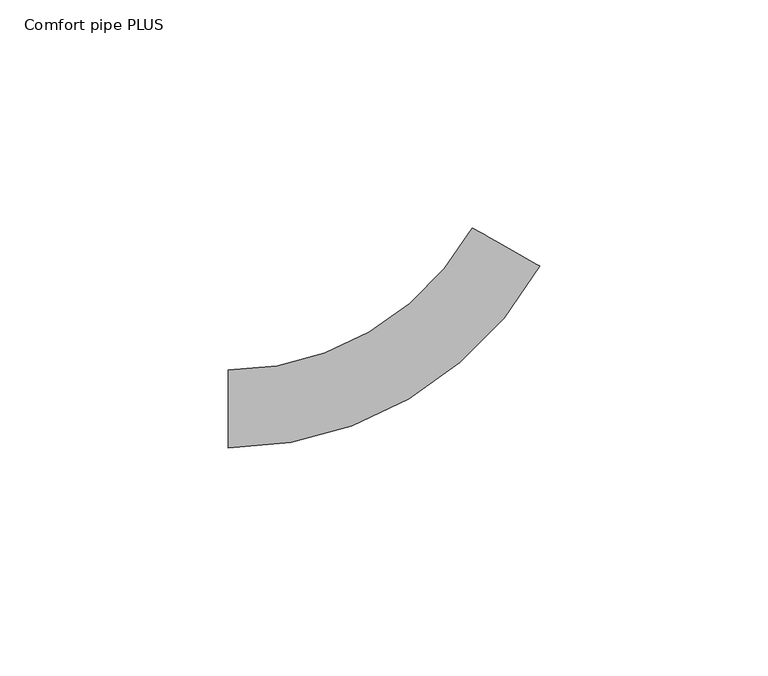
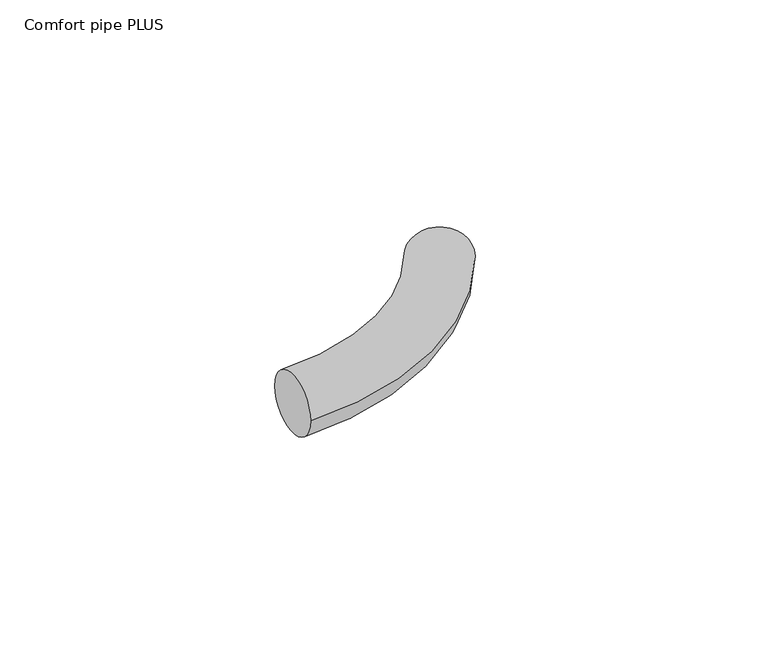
"""IFC4 building model written with IfcOpenShell, lengths in millimetres: pipe fitting geometry, 400_5-_Uponor_curved_Elbow : Comfort pipe PLUS."""

import ifcopenshell
import ifcopenshell.guid

model = None  # the IFC model being written
_history = None  # IfcOwnerHistory: only IFC2X3 demands one
_inside = {}  # id of a spatial element -> (the spatial element, [elements in it])
_under = {}  # id of a project, library or spatial element -> (it, [spatial elements below it])
_declared = {}  # id of a project -> (the project, [libraries it declares])
_typed = {}  # id of a type object -> (the type object, [elements of that type])
_made_of = {}  # id of a material, layer set ... -> (it, [elements and type objects made of it])


def new_model(schema):
    """Start an empty IFC model of exactly this schema.

    Asked for "IFC4X3", IfcOpenShell would pick the latest addendum, in which some entities
    have other attributes; the version numbers below select the first issue.
    IFC2X3 requires an IfcOwnerHistory on every rooted entity: one is made here for all.
    """
    global model, _history
    if schema == "IFC4X3":
        model = ifcopenshell.file(schema_version=(4, 3, 0, 0))
    else:
        model = ifcopenshell.file(schema=schema)
    _inside.clear()
    _under.clear()
    _declared.clear()
    _typed.clear()
    _made_of.clear()
    _history = None
    if model.schema == "IFC2X3":
        org = make("IfcOrganization", Name="unknown")
        user = make(
            "IfcPersonAndOrganization",
            ThePerson=make("IfcPerson", FamilyName="unknown"),
            TheOrganization=org,
        )
        app = make(
            "IfcApplication",
            ApplicationDeveloper=org,
            Version="unknown",
            ApplicationFullName="unknown",
            ApplicationIdentifier="unknown",
        )
        _history = make(
            "IfcOwnerHistory",
            OwningUser=user,
            OwningApplication=app,
            ChangeAction="ADDED",
            CreationDate=0,
        )
    return model


def make(cls, **values):
    """One entity of the class cls with the attributes given. An attribute that is None is left unset."""
    return model.create_entity(
        cls, **{name: value for name, value in values.items() if value is not None}
    )


def rooted(cls, **values):
    """An entity with a GlobalId (a new one), such as an element, a storey or a relation."""
    return make(cls, GlobalId=ifcopenshell.guid.new(), OwnerHistory=_history, **values)


def si_unit(unit_type, name, prefix=None):
    """IfcSIUnit, for example si_unit("LENGTHUNIT", "METRE", prefix="MILLI")."""
    return make("IfcSIUnit", UnitType=unit_type, Prefix=prefix, Name=name)


def assignment(units):
    """IfcUnitAssignment: the units of a project."""
    return None if units is None else make("IfcUnitAssignment", Units=units)


def point(xyz):
    """IfcCartesianPoint."""
    return None if xyz is None else make("IfcCartesianPoint", Coordinates=xyz)


def direction(xyz):
    """IfcDirection."""
    return None if xyz is None else make("IfcDirection", DirectionRatios=xyz)


def frame(location, z_axis=None, x_axis=None):
    """IfcAxis2Placement3D, a coordinate frame: its origin and axes. An axis left out is left unset."""
    return make(
        "IfcAxis2Placement3D",
        Location=point(location),
        Axis=direction(z_axis),
        RefDirection=direction(x_axis),
    )


def origin():
    """The frame at (0, 0, 0) with its axes left unset."""
    return frame((0.0, 0.0, 0.0))


def place(relative_to, where):
    """IfcLocalPlacement: puts the frame where relative to a parent placement (None: the world)."""
    return make(
        "IfcLocalPlacement", PlacementRelTo=relative_to, RelativePlacement=where
    )


def context(
    kind, dimensions, precision=None, world=None, true_north=None, identifier=None
):
    """IfcGeometricRepresentationContext, for example the 3D "Model" context."""
    return make(
        "IfcGeometricRepresentationContext",
        ContextIdentifier=identifier,
        ContextType=kind,
        CoordinateSpaceDimension=dimensions,
        Precision=precision,
        WorldCoordinateSystem=world,
        TrueNorth=true_north,
    )


def project(units=None, contexts=None):
    """IfcProject with its units and contexts."""
    return rooted(
        "IfcProject",
        Name="project",
        RepresentationContexts=contexts,
        UnitsInContext=assignment(units),
    )


def spatial(cls, under=None, at=None, **own):
    """A site, building, storey or space (cls), placed at a placement, below another one or the project."""
    s = rooted(cls, ObjectPlacement=at, **own)
    if under is not None:
        _under.setdefault(under.id(), (under, []))[1].append(s)
    return s


def circle_curve(where, radius):
    """IfcCircle in the frame where."""
    return make("IfcCircle", Position=where, Radius=radius)


def ellipse_curve(where, semi_axis1, semi_axis2):
    """IfcEllipse in the frame where."""
    return make(
        "IfcEllipse", Position=where, SemiAxis1=semi_axis1, SemiAxis2=semi_axis2
    )


def trimmed(basis, trim1, trim2, sense, master):
    """IfcTrimmedCurve: the piece of a basis curve between two trims."""
    return make(
        "IfcTrimmedCurve",
        BasisCurve=basis,
        Trim1=trim1,
        Trim2=trim2,
        SenseAgreement=sense,
        MasterRepresentation=master,
    )


def shape(context_of_items, identifier, shape_type, items):
    """IfcShapeRepresentation: the items that make up one representation, for example the "Body"."""
    return make(
        "IfcShapeRepresentation",
        ContextOfItems=context_of_items,
        RepresentationIdentifier=identifier,
        RepresentationType=shape_type,
        Items=items,
    )


def source(mapping_origin, context_of_items, identifier, shape_type, items):
    """IfcRepresentationMap: a shape defined once, which mapped items show again and again."""
    return make(
        "IfcRepresentationMap",
        MappingOrigin=mapping_origin,
        MappedRepresentation=shape(context_of_items, identifier, shape_type, items),
    )


def transform(
    local_origin,
    x_axis=None,
    y_axis=None,
    z_axis=None,
    scale=None,
    scale2=None,
    scale3=None,
    uniform=True,
):
    """IfcCartesianTransformationOperator3D, or its non-uniform kind. x_axis, y_axis, z_axis: its Axis1, 2, 3."""
    if uniform:
        return make(
            "IfcCartesianTransformationOperator3D",
            Axis1=direction(x_axis),
            Axis2=direction(y_axis),
            LocalOrigin=point(local_origin),
            Scale=scale,
            Axis3=direction(z_axis),
        )
    return make(
        "IfcCartesianTransformationOperator3DnonUniform",
        Axis1=direction(x_axis),
        Axis2=direction(y_axis),
        LocalOrigin=point(local_origin),
        Scale=scale,
        Axis3=direction(z_axis),
        Scale2=scale2,
        Scale3=scale3,
    )


def mapped(mapping_source, mapping_target):
    """IfcMappedItem: shows the shape of a source again, moved by a transform."""
    return make(
        "IfcMappedItem", MappingSource=mapping_source, MappingTarget=mapping_target
    )


def made_of(thing, what):
    """Note that an element or type object is made of a material, layer set ...; save() writes the relation."""
    if what is not None:
        _made_of.setdefault(what.id(), (what, []))[1].append(thing)
    return thing


def element(
    cls,
    number,
    at=None,
    inside=None,
    cuts=None,
    type_object=None,
    material=None,
    context=None,
    identifier="Body",
    shape_type=None,
    held_by="IfcProductDefinitionShape",
    body=None,
    shapes=None,
    **own,
):
    """One element of the class cls, such as IfcWall. Its Tag is "e" and its number.

    at: its placement. inside: the storey or other place that contains it. cuts: it is an
    opening in that element (IfcRelVoidsElement). A single representation is given by context,
    identifier, shape_type and body (its items); several are given by shapes. held_by: the class
    of the entity that holds the representations. save() writes the other relations.
    """
    e = rooted(cls, Tag="e%d" % number, ObjectPlacement=at, **own)
    if body is not None:
        shapes = [shape(context, identifier, shape_type, body)]
    if shapes is not None:
        e.Representation = make(held_by, Representations=shapes)
    if inside is not None:
        _inside.setdefault(inside.id(), (inside, []))[1].append(e)
    if cuts is not None:
        rooted(
            "IfcRelVoidsElement", RelatingBuildingElement=cuts, RelatedOpeningElement=e
        )
    if type_object is not None:
        _typed.setdefault(type_object.id(), (type_object, []))[1].append(e)
    return made_of(e, material)


def aggregate(whole, parts):
    """IfcRelAggregates: a whole, such as a stair, and the parts it consists of."""
    return rooted("IfcRelAggregates", RelatingObject=whole, RelatedObjects=parts)


def save(model, path):
    """Write the relations noted so far, then the file.

    IfcRelAggregates (storeys below a building ...), IfcRelContainedInSpatialStructure (elements
    in a storey), IfcRelDefinesByType, IfcRelAssociatesMaterial and IfcRelDeclares: one each for
    every whole, place, type object, material and project.
    """
    for whole, parts in _under.values():
        aggregate(whole, parts)
    for where, things in _inside.values():
        rooted(
            "IfcRelContainedInSpatialStructure",
            RelatedElements=things,
            RelatingStructure=where,
        )
    for kind, things in _typed.values():
        rooted("IfcRelDefinesByType", RelatedObjects=things, RelatingType=kind)
    for what, things in _made_of.values():
        rooted("IfcRelAssociatesMaterial", RelatedObjects=things, RelatingMaterial=what)
    for by, libraries in _declared.values():
        rooted("IfcRelDeclares", RelatingContext=by, RelatedDefinitions=libraries)
    model.write(path)


def plane_surface(at):
    """IfcPlane: the flat surface through the origin of the frame at, square to its z axis."""
    return make("IfcPlane", Position=at)


def revolved_surface(curve, axis_point, axis_direction):
    """IfcSurfaceOfRevolution: the curve turned about the line through axis_point along axis_direction."""
    return make(
        "IfcSurfaceOfRevolution",
        SweptCurve=make("IfcArbitraryOpenProfileDef", ProfileType="CURVE", Curve=curve),
        AxisPosition=make("IfcAxis1Placement", Location=point(axis_point), Axis=direction(axis_direction)),
    )


def advanced_brep(points, edges, surfaces, faces):
    """IfcAdvancedBrep: a solid bounded by faces that lie on surfaces and meet in shared edges.

    An edge is (start, end): straight between two places in points (the first is 0);
    or (start, end, curve); or (start, end, curve, False) where it runs against its curve.
    A face is (place in surfaces, loops), or (place, loops, False) where it looks against
    its surface's normal. A loop lists edges by number (the first is 1), with a minus sign
    where the edge is run from its end to its start. The first loop is the outer one.
    """
    corners = [point(p) for p in points]
    vertices = [make("IfcVertexPoint", VertexGeometry=c) for c in corners]
    made = []
    for start, end, *more in edges:
        made.append(
            make(
                "IfcEdgeCurve",
                EdgeStart=vertices[start],
                EdgeEnd=vertices[end],
                EdgeGeometry=more[0] if more else make("IfcPolyline", Points=[corners[start], corners[end]]),
                SameSense=more[1] if len(more) > 1 else True,
            )
        )
    hull = []
    for where, loops, *sense in faces:
        bounds = []
        for j, loop in enumerate(loops):
            ring = [make("IfcOrientedEdge", EdgeElement=made[abs(k) - 1], Orientation=k > 0) for k in loop]
            bounds.append(
                make(
                    "IfcFaceOuterBound" if j == 0 else "IfcFaceBound",
                    Bound=make("IfcEdgeLoop", EdgeList=ring),
                    Orientation=True,
                )
            )
        hull.append(make("IfcAdvancedFace", Bounds=bounds, FaceSurface=surfaces[where], SameSense=sense[0] if sense else True))
    return make("IfcAdvancedBrep", Outer=make("IfcClosedShell", CfsFaces=hull))


def comfort_pipe_plus_3dcb67fc(model_context):
    return source(origin(), model_context, "Body", "AdvancedBrep", [
        advanced_brep(
        [(-40.7988442, -8.5, 0.0), (-40.7988442, 8.5, 0.0), (27.5043285, 31.3098644, 0.0), (12.7125586, 39.6886199, 0.0)],
        [
            (0, 1, circle_curve(frame((-40.7988442, 0.0, 0.0), z_axis=(-1.0, 0.0, 0.0), x_axis=(0.0, 1.0, 0.0)), 8.5)),
            (1, 0, circle_curve(frame((-40.7988442, 0.0, 0.0), z_axis=(-1.0, 0.0, 0.0), x_axis=(0.0, 1.0, 0.0)), 8.5)),
            (2, 3, circle_curve(frame((20.1084435, 35.4992421, 0.0), z_axis=(0.4928679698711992, 0.8701041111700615, 0.0), x_axis=(-0.8701041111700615, 0.4928679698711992, 0.0)), 8.5)),
            (3, 2, circle_curve(frame((20.1084435, 35.4992421, 0.0), z_axis=(0.4928679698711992, 0.8701041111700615, 0.0), x_axis=(-0.8701041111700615, 0.4928679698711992, 0.0)), 8.5)),
            (3, 1, circle_curve(frame((-40.7988442, 70.0, 0.0), z_axis=(0.0, 0.0, -1.0), x_axis=(0.0, -1.0, 0.0)), 61.5)),
            (0, 2, circle_curve(frame((-40.7988442, 70.0, 0.0), z_axis=(0.0, 0.0, 1.0), x_axis=(0.0, -1.0, 0.0)), 78.5)),
        ],
        [
            plane_surface(frame((-40.7988442, 0.0, 0.0), z_axis=(-1.0, 0.0, 0.0), x_axis=(0.0, 0.0, 1.0))),
            plane_surface(frame((20.1084435, 35.4992421, 0.0), z_axis=(0.4928679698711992, 0.8701041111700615, 0.0), x_axis=(0.0, 0.0, 1.0))),
            revolved_surface(trimmed(ellipse_curve(frame((-40.7988442, 0.0, 0.0), z_axis=(-1.0, 0.0, 0.0), x_axis=(0.0, 1.0, 0.0)), 8.5, 8.5), [point((-40.7988442, -8.5, 0.0))], [point((-40.7988442, 8.5, 0.0))], True, "CARTESIAN"), (-40.7988442, 70.0, 0.0), (0.0, 0.0, 1.0)),
            revolved_surface(trimmed(ellipse_curve(frame((-40.7988442, 0.0, 0.0), z_axis=(-1.0, 0.0, 0.0), x_axis=(0.0, 1.0, 0.0)), 8.5, 8.5), [point((-40.7988442, 8.5, 0.0))], [point((-40.7988442, -8.5, 0.0))], True, "CARTESIAN"), (-40.7988442, 70.0, 0.0), (0.0, 0.0, 1.0)),
        ],
        [
            (0, [[1, 2]]),
            (1, [[3, 4]]),
            (2, [[5, -1, 6, -4]]),
            (3, [[-6, -2, -5, -3]]),
        ],
    ),
    ])


if __name__ == "__main__":
    model = new_model("IFC4")
    model_context = context("Model", 3, world=origin())
    ifc_project = project(units=[si_unit("LENGTHUNIT", "METRE", prefix="MILLI")], contexts=[model_context])
    site = spatial("IfcSite", under=ifc_project)
    building = spatial("IfcBuilding", under=site)
    placement = place(None, origin())
    comfort_pipe_plus_shape = comfort_pipe_plus_3dcb67fc(model_context)
    element("IfcPipeFitting", 1, ObjectType="400_5-_Uponor_curved_Elbow : Comfort pipe PLUS", at=placement, inside=building, context=model_context, shape_type="MappedRepresentation", body=[
        mapped(comfort_pipe_plus_shape, transform((0.0, 0.0, 0.0), x_axis=(1.0, 0.0, 0.0), y_axis=(0.0, 1.0, 0.0), z_axis=(0.0, 0.0, 1.0))),
    ])
    save(model, "model.ifc")
